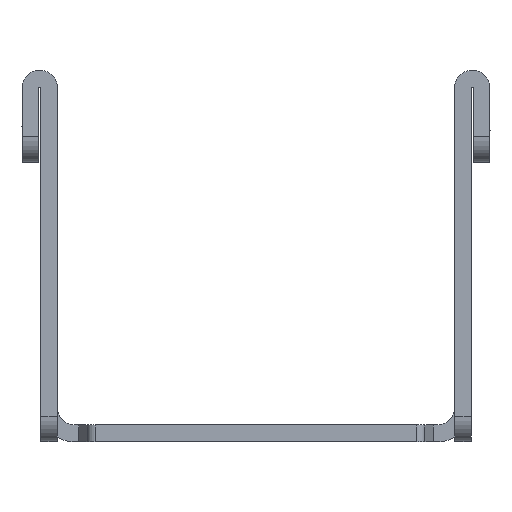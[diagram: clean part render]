
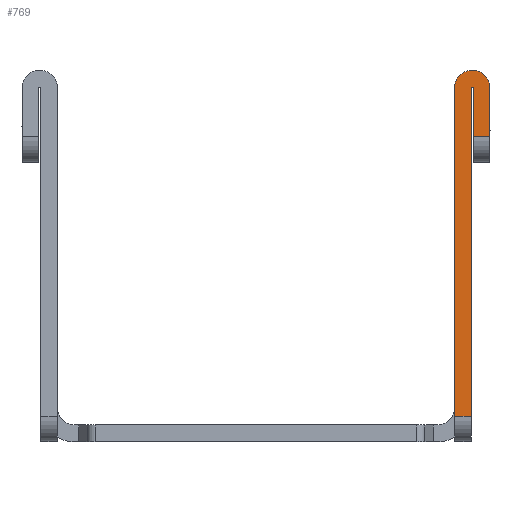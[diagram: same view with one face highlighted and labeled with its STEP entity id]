
A CAD part, front view. The second image highlights one B-rep face of the part: STEP entity #769.
In plain terms, the highlighted planar face has unit normal (0, -1, 0).
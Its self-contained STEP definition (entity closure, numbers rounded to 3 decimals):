
#113 = ORIENTED_EDGE ( 'NONE', *, *, #1516, .F. ) ;
#160 = AXIS2_PLACEMENT_3D ( 'NONE', #1065, #2658, #3871 ) ;
#174 = VERTEX_POINT ( 'NONE', #654 ) ;
#183 = CARTESIAN_POINT ( 'NONE',  ( 8665.7, -6192., 381.043 ) ) ;
#255 = AXIS2_PLACEMENT_3D ( 'NONE', #3082, #1552, #2779 ) ;
#382 = EDGE_CURVE ( 'NONE', #3805, #1849, #3366, .T. ) ;
#450 = LINE ( 'NONE', #2355, #2475 ) ;
#453 = CARTESIAN_POINT ( 'NONE',  ( 8667.7, -6192., 375.243 ) ) ;
#506 = DIRECTION ( 'NONE',  ( -1., 0., 0. ) ) ;
#546 = CARTESIAN_POINT ( 'NONE',  ( 8664.5, -6192., 342.146 ) ) ;
#587 = DIRECTION ( 'NONE',  ( 0., -1., 0. ) ) ;
#638 = VERTEX_POINT ( 'NONE', #2050 ) ;
#654 = CARTESIAN_POINT ( 'NONE',  ( 8665.6, -6192., 381.143 ) ) ;
#656 = EDGE_CURVE ( 'NONE', #990, #2500, #450, .T. ) ;
#734 = CARTESIAN_POINT ( 'NONE',  ( 8663.5, -6192., 342.146 ) ) ;
#769 = ADVANCED_FACE ( 'NONE', ( #2433 ), #2110, .T. ) ;
#848 = CARTESIAN_POINT ( 'NONE',  ( 8665.6, -6192., 381.043 ) ) ;
#903 = ORIENTED_EDGE ( 'NONE', *, *, #2041, .T. ) ;
#990 = VERTEX_POINT ( 'NONE', #3194 ) ;
#1017 = EDGE_CURVE ( 'NONE', #2319, #990, #1387, .T. ) ;
#1053 = CARTESIAN_POINT ( 'NONE',  ( 8665.6, -6192., 381.043 ) ) ;
#1065 = CARTESIAN_POINT ( 'NONE',  ( 8665.6, -6192., 381.043 ) ) ;
#1099 = ORIENTED_EDGE ( 'NONE', *, *, #1939, .F. ) ;
#1173 = LINE ( 'NONE', #1478, #2295 ) ;
#1194 = EDGE_CURVE ( 'NONE', #1678, #638, #1173, .T. ) ;
#1203 = DIRECTION ( 'NONE',  ( 0., 0., -1. ) ) ;
#1206 = ORIENTED_EDGE ( 'NONE', *, *, #1017, .T. ) ;
#1207 = VECTOR ( 'NONE', #1203, 1000. ) ;
#1271 = EDGE_CURVE ( 'NONE', #638, #174, #2036, .T. ) ;
#1280 = VECTOR ( 'NONE', #3196, 1000. ) ;
#1281 = CARTESIAN_POINT ( 'NONE',  ( 8666.7, -6192., 375.243 ) ) ;
#1289 = CARTESIAN_POINT ( 'NONE',  ( 8667.7, -6192., 381.043 ) ) ;
#1387 = CIRCLE ( 'NONE', #3195, 2.1 ) ;
#1436 = DIRECTION ( 'NONE',  ( 0., 0., 1. ) ) ;
#1478 = CARTESIAN_POINT ( 'NONE',  ( 8665.5, -6192., 361.594 ) ) ;
#1479 = VECTOR ( 'NONE', #506, 1000. ) ;
#1480 = DIRECTION ( 'NONE',  ( -1., 0., 0. ) ) ;
#1516 = EDGE_CURVE ( 'NONE', #2616, #1849, #3704, .T. ) ;
#1552 = DIRECTION ( 'NONE',  ( 0., -1., 0. ) ) ;
#1568 = CARTESIAN_POINT ( 'NONE',  ( 8665.6, -6192., 383.143 ) ) ;
#1635 = EDGE_LOOP ( 'NONE', ( #113, #2827, #3839, #1206, #2442, #1099, #2608, #1904, #903, #2365 ) ) ;
#1678 = VERTEX_POINT ( 'NONE', #3761 ) ;
#1771 = CARTESIAN_POINT ( 'NONE',  ( 8663.5, -6192., 342.146 ) ) ;
#1830 = EDGE_CURVE ( 'NONE', #2616, #3360, #3212, .T. ) ;
#1842 = VECTOR ( 'NONE', #3725, 1000. ) ;
#1849 = VERTEX_POINT ( 'NONE', #3520 ) ;
#1904 = ORIENTED_EDGE ( 'NONE', *, *, #1271, .T. ) ;
#1939 = EDGE_CURVE ( 'NONE', #1678, #2500, #3658, .T. ) ;
#2000 = CIRCLE ( 'NONE', #255, 2.1 ) ;
#2036 = CIRCLE ( 'NONE', #160, 0.1 ) ;
#2041 = EDGE_CURVE ( 'NONE', #174, #3805, #3217, .T. ) ;
#2050 = CARTESIAN_POINT ( 'NONE',  ( 8665.5, -6192., 381.043 ) ) ;
#2081 = AXIS2_PLACEMENT_3D ( 'NONE', #1771, #587, #2375 ) ;
#2086 = DIRECTION ( 'NONE',  ( 0., 1., 0. ) ) ;
#2110 = PLANE ( 'NONE',  #2081 ) ;
#2112 = EDGE_CURVE ( 'NONE', #3360, #2319, #2000, .T. ) ;
#2295 = VECTOR ( 'NONE', #1436, 1000. ) ;
#2319 = VERTEX_POINT ( 'NONE', #1568 ) ;
#2355 = CARTESIAN_POINT ( 'NONE',  ( 8663.5, -6192., 361.594 ) ) ;
#2365 = ORIENTED_EDGE ( 'NONE', *, *, #382, .T. ) ;
#2375 = DIRECTION ( 'NONE',  ( 1., 0., 0. ) ) ;
#2433 = FACE_OUTER_BOUND ( 'NONE', #1635, .T. ) ;
#2442 = ORIENTED_EDGE ( 'NONE', *, *, #656, .T. ) ;
#2475 = VECTOR ( 'NONE', #3847, 1000. ) ;
#2500 = VERTEX_POINT ( 'NONE', #734 ) ;
#2608 = ORIENTED_EDGE ( 'NONE', *, *, #1194, .T. ) ;
#2616 = VERTEX_POINT ( 'NONE', #453 ) ;
#2622 = DIRECTION ( 'NONE',  ( 0., -1., 0. ) ) ;
#2624 = CARTESIAN_POINT ( 'NONE',  ( 8667.7, -6192., 378.143 ) ) ;
#2658 = DIRECTION ( 'NONE',  ( 0., 1., 0. ) ) ;
#2779 = DIRECTION ( 'NONE',  ( 1., 0., 0. ) ) ;
#2827 = ORIENTED_EDGE ( 'NONE', *, *, #1830, .T. ) ;
#3082 = CARTESIAN_POINT ( 'NONE',  ( 8665.6, -6192., 381.043 ) ) ;
#3194 = CARTESIAN_POINT ( 'NONE',  ( 8663.5, -6192., 381.043 ) ) ;
#3195 = AXIS2_PLACEMENT_3D ( 'NONE', #1053, #2622, #3801 ) ;
#3196 = DIRECTION ( 'NONE',  ( 0., 0., 1. ) ) ;
#3212 = LINE ( 'NONE', #2624, #1280 ) ;
#3217 = CIRCLE ( 'NONE', #3354, 0.1 ) ;
#3354 = AXIS2_PLACEMENT_3D ( 'NONE', #848, #2086, #1480 ) ;
#3360 = VERTEX_POINT ( 'NONE', #1289 ) ;
#3366 = LINE ( 'NONE', #3684, #1207 ) ;
#3520 = CARTESIAN_POINT ( 'NONE',  ( 8665.7, -6192., 375.243 ) ) ;
#3658 = LINE ( 'NONE', #546, #1479 ) ;
#3684 = CARTESIAN_POINT ( 'NONE',  ( 8665.7, -6192., 378.143 ) ) ;
#3704 = LINE ( 'NONE', #1281, #1842 ) ;
#3725 = DIRECTION ( 'NONE',  ( -1., 0., 0. ) ) ;
#3761 = CARTESIAN_POINT ( 'NONE',  ( 8665.5, -6192., 342.146 ) ) ;
#3801 = DIRECTION ( 'NONE',  ( 1., 0., 0. ) ) ;
#3805 = VERTEX_POINT ( 'NONE', #183 ) ;
#3839 = ORIENTED_EDGE ( 'NONE', *, *, #2112, .T. ) ;
#3847 = DIRECTION ( 'NONE',  ( 0., 0., -1. ) ) ;
#3871 = DIRECTION ( 'NONE',  ( -1., 0., 0. ) ) ;
